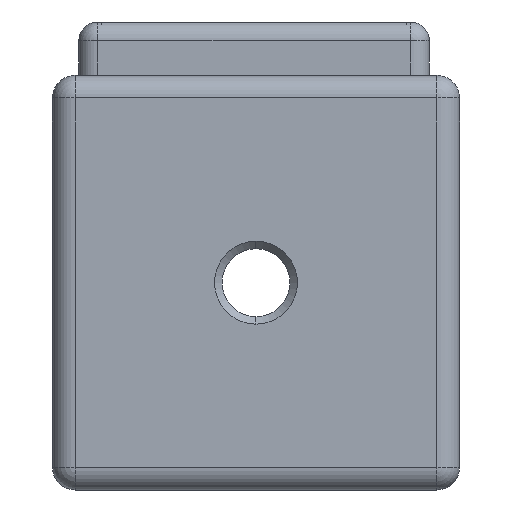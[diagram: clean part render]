
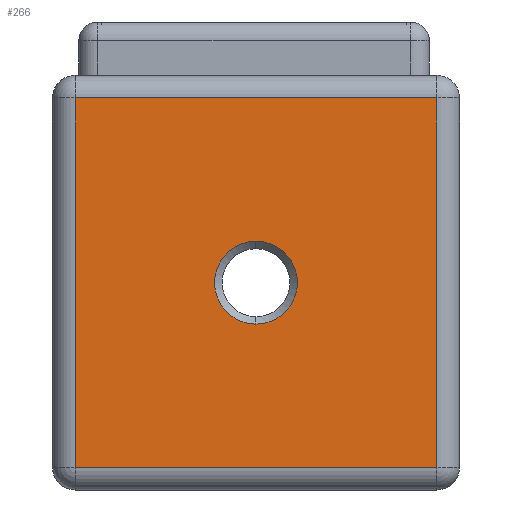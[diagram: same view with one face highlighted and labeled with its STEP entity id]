
A CAD part, front view. The second image highlights one B-rep face of the part: STEP entity #266.
In plain terms, the highlighted planar face has unit normal (0, -1, 0).
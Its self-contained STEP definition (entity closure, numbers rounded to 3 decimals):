
#232 = EDGE_LOOP ( 'NONE', ( #281, #359 ) ) ;
#244 = VERTEX_POINT ( 'NONE', #1469 ) ;
#252 = ORIENTED_EDGE ( 'NONE', *, *, #278, .T. ) ;
#253 = VERTEX_POINT ( 'NONE', #1455 ) ;
#254 = VERTEX_POINT ( 'NONE', #1454 ) ;
#266 = ADVANCED_FACE ( 'NONE', ( #1491, #1490 ), #1489, .T. ) ;
#275 = VERTEX_POINT ( 'NONE', #1535 ) ;
#276 = ORIENTED_EDGE ( 'NONE', *, *, #277, .T. ) ;
#277 = EDGE_CURVE ( 'NONE', #275, #244, #1533, .T. ) ;
#278 = EDGE_CURVE ( 'NONE', #253, #275, #1529, .T. ) ;
#281 = ORIENTED_EDGE ( 'NONE', *, *, #568, .T. ) ;
#303 = EDGE_CURVE ( 'NONE', #244, #254, #1570, .T. ) ;
#305 = ORIENTED_EDGE ( 'NONE', *, *, #303, .T. ) ;
#357 = EDGE_CURVE ( 'NONE', #254, #253, #1659, .T. ) ;
#358 = EDGE_CURVE ( 'NONE', #566, #580, #1655, .T. ) ;
#359 = ORIENTED_EDGE ( 'NONE', *, *, #358, .T. ) ;
#360 = EDGE_LOOP ( 'NONE', ( #361, #252, #276, #305 ) ) ;
#361 = ORIENTED_EDGE ( 'NONE', *, *, #357, .T. ) ;
#566 = VERTEX_POINT ( 'NONE', #2038 ) ;
#568 = EDGE_CURVE ( 'NONE', #580, #566, #2028, .T. ) ;
#580 = VERTEX_POINT ( 'NONE', #2074 ) ;
#1454 = CARTESIAN_POINT ( 'NONE',  ( -151.452, -651.12, -106.557 ) ) ;
#1455 = CARTESIAN_POINT ( 'NONE',  ( -55.452, -651.12, -106.557 ) ) ;
#1469 = CARTESIAN_POINT ( 'NONE',  ( -151.452, -651.12, -8.557 ) ) ;
#1485 = DIRECTION ( 'NONE',  ( 0., 0., -1. ) ) ;
#1486 = DIRECTION ( 'NONE',  ( 0., -1., 0. ) ) ;
#1487 = CARTESIAN_POINT ( 'NONE',  ( -157.452, -651.12, -112.557 ) ) ;
#1488 = AXIS2_PLACEMENT_3D ( 'NONE', #1487, #1486, #1485 ) ;
#1489 = PLANE ( 'NONE',  #1488 ) ;
#1490 = FACE_OUTER_BOUND ( 'NONE', #360, .T. ) ;
#1491 = FACE_BOUND ( 'NONE', #232, .T. ) ;
#1526 = DIRECTION ( 'NONE',  ( 0., 0., 1. ) ) ;
#1527 = VECTOR ( 'NONE', #1526, 1000. ) ;
#1528 = CARTESIAN_POINT ( 'NONE',  ( -55.452, -651.12, -112.557 ) ) ;
#1529 = LINE ( 'NONE', #1528, #1527 ) ;
#1530 = DIRECTION ( 'NONE',  ( -1., 0., 0. ) ) ;
#1531 = VECTOR ( 'NONE', #1530, 1000. ) ;
#1532 = CARTESIAN_POINT ( 'NONE',  ( -157.452, -651.12, -8.557 ) ) ;
#1533 = LINE ( 'NONE', #1532, #1531 ) ;
#1535 = CARTESIAN_POINT ( 'NONE',  ( -55.452, -651.12, -8.557 ) ) ;
#1564 = DIRECTION ( 'NONE',  ( 0., 0., -1. ) ) ;
#1565 = VECTOR ( 'NONE', #1564, 1000. ) ;
#1566 = CARTESIAN_POINT ( 'NONE',  ( -151.452, -651.12, -112.557 ) ) ;
#1570 = LINE ( 'NONE', #1566, #1565 ) ;
#1651 = DIRECTION ( 'NONE',  ( 0., 0., -1. ) ) ;
#1652 = DIRECTION ( 'NONE',  ( 0., 1., 0. ) ) ;
#1653 = CARTESIAN_POINT ( 'NONE',  ( -103.452, -651.12, -57.557 ) ) ;
#1654 = AXIS2_PLACEMENT_3D ( 'NONE', #1653, #1652, #1651 ) ;
#1655 = CIRCLE ( 'NONE', #1654, 11. ) ;
#1656 = DIRECTION ( 'NONE',  ( 1., 0., 0. ) ) ;
#1657 = VECTOR ( 'NONE', #1656, 1000. ) ;
#1658 = CARTESIAN_POINT ( 'NONE',  ( -49.452, -651.12, -106.557 ) ) ;
#1659 = LINE ( 'NONE', #1658, #1657 ) ;
#2024 = DIRECTION ( 'NONE',  ( 0., 0., -1. ) ) ;
#2025 = DIRECTION ( 'NONE',  ( 0., 1., 0. ) ) ;
#2026 = CARTESIAN_POINT ( 'NONE',  ( -103.452, -651.12, -57.557 ) ) ;
#2027 = AXIS2_PLACEMENT_3D ( 'NONE', #2026, #2025, #2024 ) ;
#2028 = CIRCLE ( 'NONE', #2027, 11. ) ;
#2038 = CARTESIAN_POINT ( 'NONE',  ( -103.452, -651.12, -46.557 ) ) ;
#2074 = CARTESIAN_POINT ( 'NONE',  ( -103.452, -651.12, -68.557 ) ) ;
